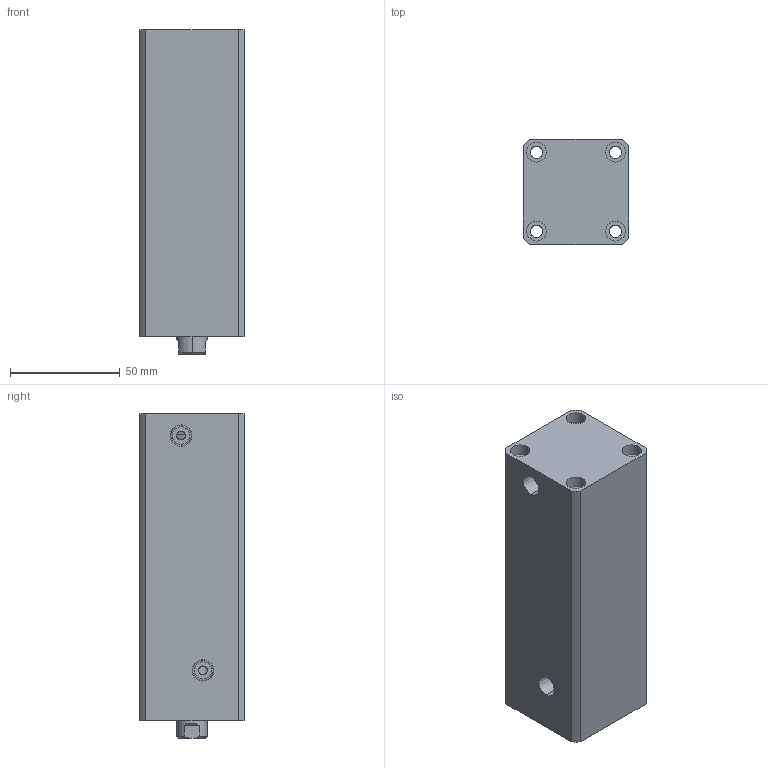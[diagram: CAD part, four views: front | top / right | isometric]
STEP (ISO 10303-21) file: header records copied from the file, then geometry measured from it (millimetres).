
FILE_DESCRIPTION (( 'STEP AP214' ), '1' );
FILE_NAME ('chtb-sd25x95n_asm.STEP', '2018-05-22T12:52:36', ( 'Windows' ), ( 'Microsoft' ), 'SwSTEP 2.0', 'SolidWorks 2015', '' );
FILE_SCHEMA (( 'AUTOMOTIVE_DESIGN' ));
Length unit declared in the file: millimetre
Products named in the file (4): CHTB-SD25X95NHSG; CHTB-SD25X95NBT; CHTB-25QG; chtb-sd25x95n_asm
Assembly tree (3 placements, depth 2):
  chtb-sd25x95n_asm
    CHTB-25QG
    CHTB-SD25X95NBT
    CHTB-SD25X95NHSG
Bounding box: 48 x 48 x 148 mm (x, y, z)
Volume: 270338.5 mm3; surface area: 65688.1 mm2
Topology: 3 solids, 3 shells, 144 faces, 377 edges, 257 vertices
Faces by surface type: cylinder 85, plane 36, cone 13, bspline 10
Entity records: 7940 total; most frequent: CARTESIAN_POINT 4299, ORIENTED_EDGE 742, DIRECTION 671, EDGE_CURVE 371, AXIS2_PLACEMENT_3D 278, VERTEX_POINT 257, EDGE_LOOP 182, FACE_OUTER_BOUND 144
